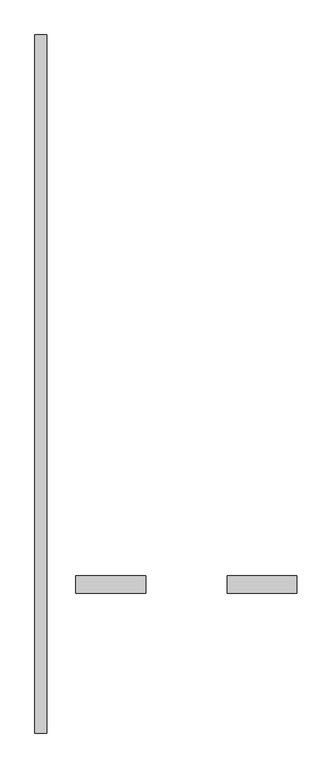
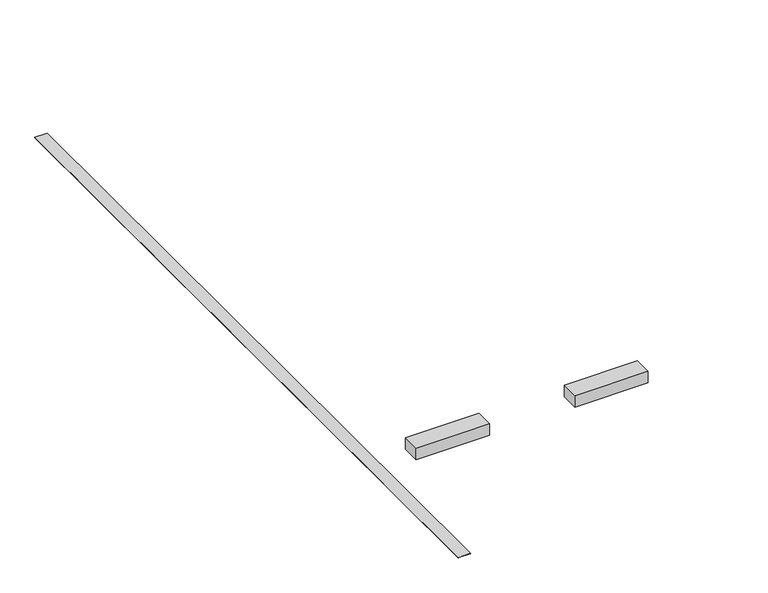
"""IFC4 building model written with IfcOpenShell, lengths in millimetres: proxy geometry, 駐車場スペース : 4800 x 2400 mm - 90 度."""

from ifc_helpers import new_model, si_unit, origin, origin_with_axes, place, context, project, spatial, polyline, outline, extrude, source, transform, mapped, element, save


def parking_47fc6d20(model_context):
    return source(origin(), model_context, "Body", "SweptSolid", [
        extrude(outline(polyline([(900.0, 1200.0), (300.0, 1200.0), (300.0, 1350.0), (900.0, 1350.0), (900.0, 1200.0)])), origin_with_axes(), (0.0, 0.0, 1.0), 100.0),
        extrude(outline(polyline([(2200.0, 1200.0), (1600.0, 1200.0), (1600.0, 1350.0), (2200.0, 1350.0), (2200.0, 1200.0)])), origin_with_axes(), (0.0, 0.0, 1.0), 100.0),
        extrude(outline(polyline([(-50.8, 0.0), (-50.8, 6000.0), (50.8, 6000.0), (50.8, 0.0), (-50.8, 0.0)])), origin_with_axes(), (0.0, 0.0, 1.0), 3.175),
    ])


if __name__ == "__main__":
    model = new_model("IFC4")
    model_context = context("Model", 3, world=origin())
    ifc_project = project(units=[si_unit("LENGTHUNIT", "METRE", prefix="MILLI")], contexts=[model_context])
    site = spatial("IfcSite", under=ifc_project)
    building = spatial("IfcBuilding", under=site)
    placement = place(None, origin())
    parking_shape = parking_47fc6d20(model_context)
    element("IfcBuildingElementProxy", 1, Name="駐車場スペース : 4800 x 2400 mm - 90 度", ObjectType="駐車場スペース : 4800 x 2400 mm - 90 度", at=placement, inside=building, context=model_context, shape_type="MappedRepresentation", body=[
        mapped(parking_shape, transform((0.0, 0.0, 0.0), x_axis=(1.0, 0.0, 0.0), y_axis=(0.0, 1.0, 0.0), z_axis=(0.0, 0.0, 1.0))),
    ])
    save(model, "model.ifc")
